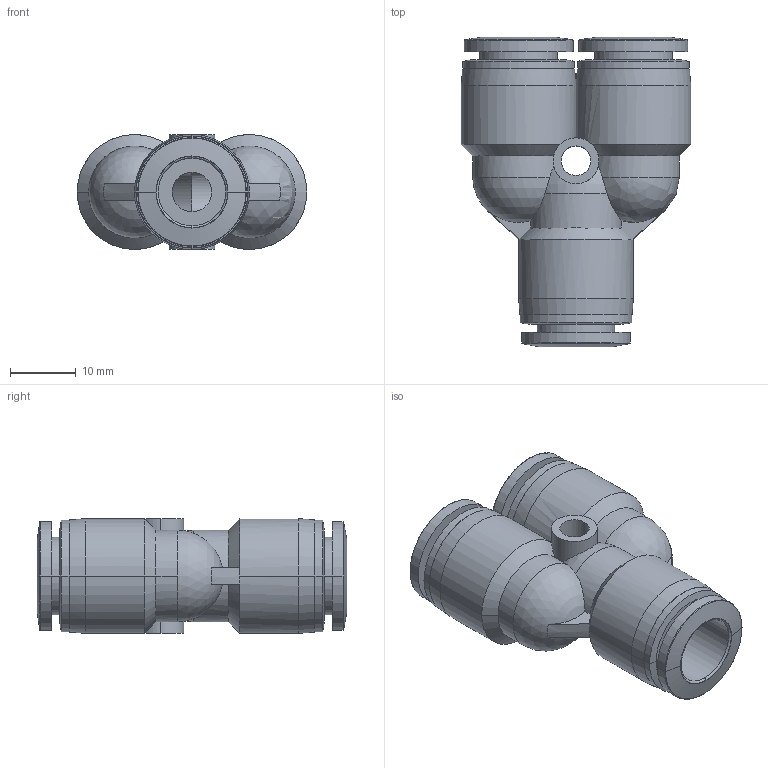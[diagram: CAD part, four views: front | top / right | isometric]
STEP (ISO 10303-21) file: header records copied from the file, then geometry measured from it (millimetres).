
FILE_DESCRIPTION (( 'STEP AP203' ), '1' );
FILE_NAME ('FY10-00.STEP', '2020-05-06T15:27:57', ( '' ), ( '' ), 'SwSTEP 2.0', 'SolidWorks 2019', '' );
FILE_SCHEMA (( 'CONFIG_CONTROL_DESIGN' ));
Length unit declared in the file: millimetre
Products named in the file (1): FY10-00
Bounding box: 35 x 47.2 x 17.5 mm (x, y, z)
Volume: 10132.7 mm3; surface area: 7571 mm2
Topology: 1 solids, 1 shells, 112 faces, 276 edges, 175 vertices
Faces by surface type: bspline 41, cylinder 30, plane 18, cone 16, torus 4, sphere 3
Entity records: 4587 total; most frequent: CARTESIAN_POINT 2011, ORIENTED_EDGE 548, DIRECTION 507, EDGE_CURVE 274, AXIS2_PLACEMENT_3D 227, VERTEX_POINT 175, CIRCLE 155, EDGE_LOOP 129
